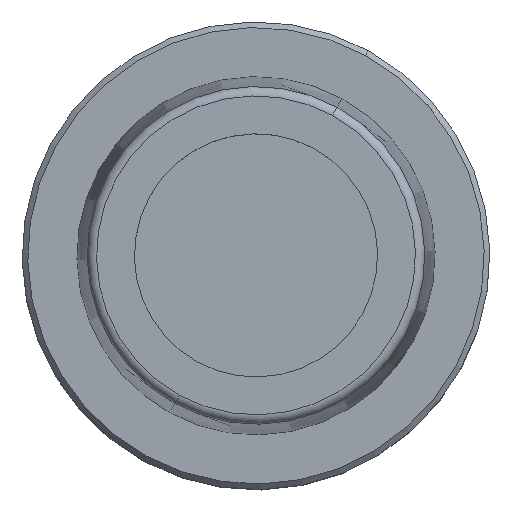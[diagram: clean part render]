
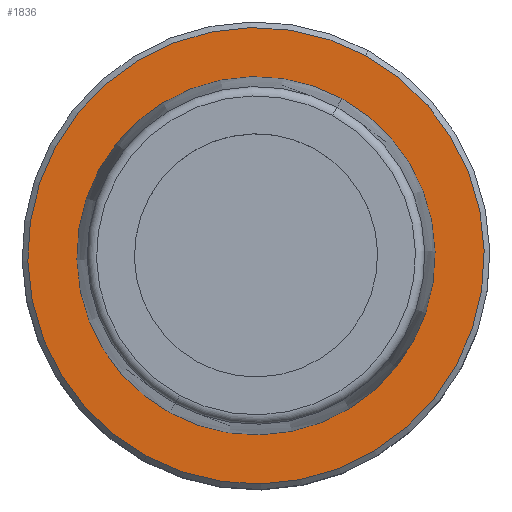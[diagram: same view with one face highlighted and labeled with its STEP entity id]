
A CAD part, top view. The second image highlights one B-rep face of the part: STEP entity #1836.
In plain terms, the highlighted planar face has unit normal (0, 0, 1).
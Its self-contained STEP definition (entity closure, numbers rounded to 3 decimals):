
#981=AXIS2_PLACEMENT_3D('Circle Axis2P3D',#979,#980,$) ;
#1007=AXIS2_PLACEMENT_3D('Circle Axis2P3D',#1005,#1006,$) ;
#1031=AXIS2_PLACEMENT_3D('Circle Axis2P3D',#1029,#1030,$) ;
#1073=AXIS2_PLACEMENT_3D('Circle Axis2P3D',#1071,#1072,$) ;
#1826=AXIS2_PLACEMENT_3D('Plane Axis2P3D',#1823,#1824,#1825) ;
#976=CARTESIAN_POINT('Vertex',(11.698,21.131,0.)) ;
#979=CARTESIAN_POINT('Axis2P3D Location',(0.,-0.282,0.)) ;
#983=CARTESIAN_POINT('Vertex',(-11.698,-21.696,0.)) ;
#1005=CARTESIAN_POINT('Axis2P3D Location',(0.,-0.282,0.)) ;
#1029=CARTESIAN_POINT('Axis2P3D Location',(0.,-0.282,0.)) ;
#1033=CARTESIAN_POINT('Vertex',(9.114,16.401,0.)) ;
#1035=CARTESIAN_POINT('Vertex',(-9.114,-16.966,0.)) ;
#1071=CARTESIAN_POINT('Axis2P3D Location',(0.,-0.282,0.)) ;
#1823=CARTESIAN_POINT('Axis2P3D Location',(0.,18.729,0.)) ;
#980=DIRECTION('Axis2P3D Direction',(0.,0.,-1.)) ;
#1006=DIRECTION('Axis2P3D Direction',(0.,0.,-1.)) ;
#1030=DIRECTION('Axis2P3D Direction',(0.,0.,-1.)) ;
#1072=DIRECTION('Axis2P3D Direction',(0.,0.,-1.)) ;
#1824=DIRECTION('Axis2P3D Direction',(0.,0.,-1.)) ;
#1825=DIRECTION('Axis2P3D XDirection',(0.,1.,0.)) ;
#1829=ORIENTED_EDGE('',*,*,#985,.F.) ;
#1830=ORIENTED_EDGE('',*,*,#1009,.F.) ;
#1833=ORIENTED_EDGE('',*,*,#1075,.T.) ;
#1834=ORIENTED_EDGE('',*,*,#1037,.T.) ;
#1835=FACE_BOUND('',#1832,.T.) ;
#1836=ADVANCED_FACE('NO_CUT',(#1831,#1835),#1827,.F.) ;
#982=CIRCLE('generated circle',#981,24.4) ;
#1008=CIRCLE('generated circle',#1007,24.4) ;
#1032=CIRCLE('generated circle',#1031,19.011) ;
#1074=CIRCLE('generated circle',#1073,19.011) ;
#985=EDGE_CURVE('',#977,#984,#982,.T.) ;
#1009=EDGE_CURVE('',#984,#977,#1008,.T.) ;
#1037=EDGE_CURVE('',#1034,#1036,#1032,.T.) ;
#1075=EDGE_CURVE('',#1036,#1034,#1074,.T.) ;
#1828=EDGE_LOOP('',(#1829,#1830)) ;
#1832=EDGE_LOOP('',(#1833,#1834)) ;
#1831=FACE_OUTER_BOUND('',#1828,.T.) ;
#1827=PLANE('Plane',#1826) ;
#977=VERTEX_POINT('',#976) ;
#984=VERTEX_POINT('',#983) ;
#1034=VERTEX_POINT('',#1033) ;
#1036=VERTEX_POINT('',#1035) ;
